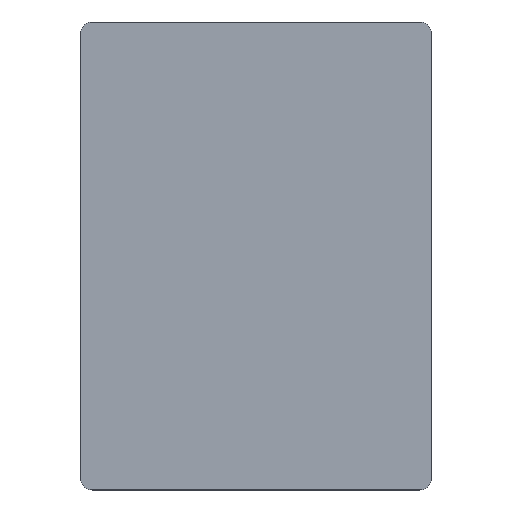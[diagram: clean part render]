
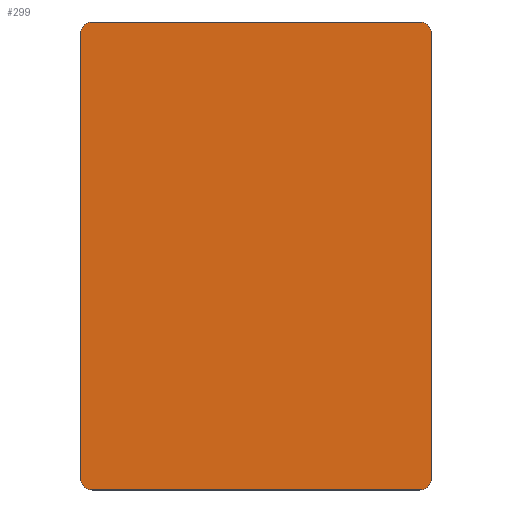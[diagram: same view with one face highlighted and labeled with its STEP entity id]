
A CAD part, top view. The second image highlights one B-rep face of the part: STEP entity #299.
In plain terms, the highlighted planar face has unit normal (0, 0, 1).
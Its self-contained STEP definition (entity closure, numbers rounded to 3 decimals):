
#39=AXIS2_PLACEMENT_3D('Circle Axis2P3D',#37,#38,$) ;
#110=AXIS2_PLACEMENT_3D('Circle Axis2P3D',#108,#109,$) ;
#172=AXIS2_PLACEMENT_3D('Circle Axis2P3D',#170,#171,$) ;
#282=AXIS2_PLACEMENT_3D('Plane Axis2P3D',#279,#280,#281) ;
#286=AXIS2_PLACEMENT_3D('Circle Axis2P3D',#284,#285,$) ;
#37=CARTESIAN_POINT('Axis2P3D Location',(145.,-5.,10.)) ;
#41=CARTESIAN_POINT('Vertex',(145.,0.,10.)) ;
#43=CARTESIAN_POINT('Vertex',(150.,-5.,10.)) ;
#83=CARTESIAN_POINT('Vertex',(5.,0.,10.)) ;
#86=CARTESIAN_POINT('Line Origine',(75.,0.,10.)) ;
#108=CARTESIAN_POINT('Axis2P3D Location',(5.,-5.,10.)) ;
#112=CARTESIAN_POINT('Vertex',(0.,-5.,10.)) ;
#146=CARTESIAN_POINT('Line Origine',(150.,-100.,10.)) ;
#150=CARTESIAN_POINT('Vertex',(150.,-195.,10.)) ;
#170=CARTESIAN_POINT('Axis2P3D Location',(145.,-195.,10.)) ;
#174=CARTESIAN_POINT('Vertex',(145.,-200.,10.)) ;
#201=CARTESIAN_POINT('Line Origine',(0.,-100.,10.)) ;
#205=CARTESIAN_POINT('Vertex',(0.,-195.,10.)) ;
#238=CARTESIAN_POINT('Vertex',(5.,-200.,10.)) ;
#246=CARTESIAN_POINT('Line Origine',(75.,-200.,10.)) ;
#279=CARTESIAN_POINT('Axis2P3D Location',(0.,0.,10.)) ;
#284=CARTESIAN_POINT('Axis2P3D Location',(5.,-195.,10.)) ;
#38=DIRECTION('Axis2P3D Direction',(0.,-0.,1.)) ;
#87=DIRECTION('Vector Direction',(1.,0.,0.)) ;
#109=DIRECTION('Axis2P3D Direction',(0.,0.,1.)) ;
#147=DIRECTION('Vector Direction',(0.,1.,0.)) ;
#171=DIRECTION('Axis2P3D Direction',(0.,0.,1.)) ;
#202=DIRECTION('Vector Direction',(0.,-1.,0.)) ;
#247=DIRECTION('Vector Direction',(-1.,0.,0.)) ;
#280=DIRECTION('Axis2P3D Direction',(0.,0.,1.)) ;
#281=DIRECTION('Axis2P3D XDirection',(1.,0.,0.)) ;
#285=DIRECTION('Axis2P3D Direction',(0.,0.,1.)) ;
#88=VECTOR('Line Direction',#87,1.) ;
#148=VECTOR('Line Direction',#147,1.) ;
#203=VECTOR('Line Direction',#202,1.) ;
#248=VECTOR('Line Direction',#247,1.) ;
#290=ORIENTED_EDGE('',*,*,#250,.T.) ;
#291=ORIENTED_EDGE('',*,*,#176,.F.) ;
#292=ORIENTED_EDGE('',*,*,#152,.T.) ;
#293=ORIENTED_EDGE('',*,*,#45,.F.) ;
#294=ORIENTED_EDGE('',*,*,#90,.T.) ;
#295=ORIENTED_EDGE('',*,*,#114,.F.) ;
#296=ORIENTED_EDGE('',*,*,#207,.T.) ;
#297=ORIENTED_EDGE('',*,*,#288,.F.) ;
#299=ADVANCED_FACE('\X2\96F64EF651E04F554F53\X0\',(#298),#283,.T.) ;
#40=CIRCLE('generated circle',#39,5.) ;
#111=CIRCLE('generated circle',#110,5.) ;
#173=CIRCLE('generated circle',#172,5.) ;
#287=CIRCLE('generated circle',#286,5.) ;
#45=EDGE_CURVE('',#42,#44,#40,.F.) ;
#90=EDGE_CURVE('',#42,#84,#89,.F.) ;
#114=EDGE_CURVE('',#113,#84,#111,.F.) ;
#152=EDGE_CURVE('',#151,#44,#149,.T.) ;
#176=EDGE_CURVE('',#151,#175,#173,.F.) ;
#207=EDGE_CURVE('',#113,#206,#204,.T.) ;
#250=EDGE_CURVE('',#239,#175,#249,.F.) ;
#288=EDGE_CURVE('',#239,#206,#287,.F.) ;
#289=EDGE_LOOP('',(#290,#291,#292,#293,#294,#295,#296,#297)) ;
#298=FACE_OUTER_BOUND('',#289,.T.) ;
#89=LINE('Line',#86,#88) ;
#149=LINE('Line',#146,#148) ;
#204=LINE('Line',#201,#203) ;
#249=LINE('Line',#246,#248) ;
#283=PLANE('',#282) ;
#42=VERTEX_POINT('',#41) ;
#44=VERTEX_POINT('',#43) ;
#84=VERTEX_POINT('',#83) ;
#113=VERTEX_POINT('',#112) ;
#151=VERTEX_POINT('',#150) ;
#175=VERTEX_POINT('',#174) ;
#206=VERTEX_POINT('',#205) ;
#239=VERTEX_POINT('',#238) ;
